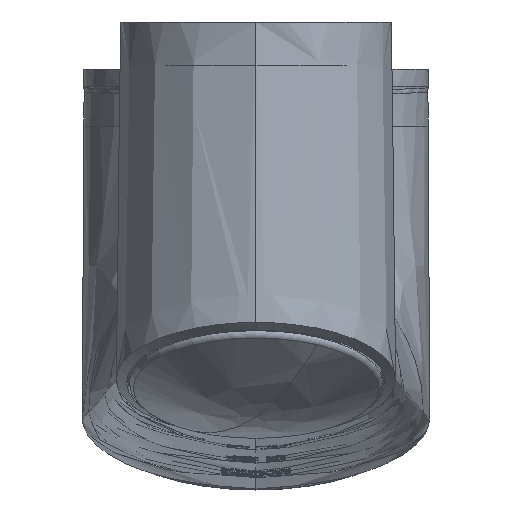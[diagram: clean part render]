
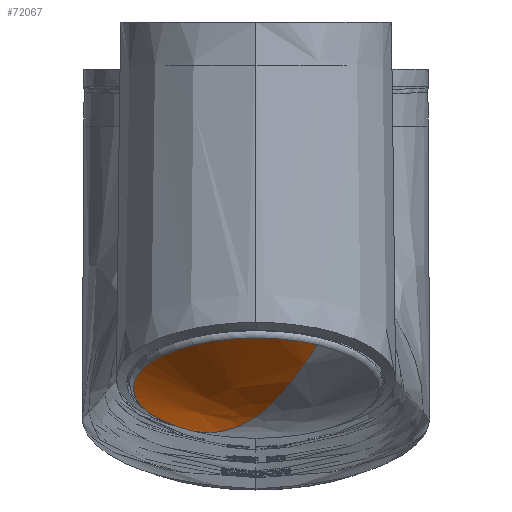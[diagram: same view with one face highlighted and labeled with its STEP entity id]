
A CAD part, top view. The second image highlights one B-rep face of the part: STEP entity #72067.
In plain terms, the highlighted free-form (B-spline) face has degree [2, 3] with [3, 4] control points.
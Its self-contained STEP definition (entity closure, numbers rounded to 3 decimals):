
#952 = VERTEX_POINT ( 'NONE', #61733 ) ;
#3446 = CARTESIAN_POINT ( 'NONE',  ( 150., -232.071, 1023.697 ) ) ;
#4675 = EDGE_CURVE ( 'NONE', #75337, #35367, #16576, .T. ) ;
#5918 = B_SPLINE_CURVE_WITH_KNOTS ( 'NONE', 2,
 ( #68994, #49418, #35796 ),
 .UNSPECIFIED., .F., .F.,
 ( 3, 3 ),
 ( 0., 0.931 ),
 .UNSPECIFIED. ) ;
#10265 = CARTESIAN_POINT ( 'NONE',  ( 150., -232.071, 1023.697 ) ) ;
#12660 = CARTESIAN_POINT ( 'NONE',  ( 150., -232.071, 1023.697 ) ) ;
#13939 = CARTESIAN_POINT ( 'NONE',  ( 176.809, -200.513, 1060.475 ) ) ;
#16576 = CIRCLE ( 'NONE', #64140, 53.618 ) ;
#17064 = CARTESIAN_POINT ( 'NONE',  ( 176.809, -200.513, 1060.475 ) ) ;
#17228 = CARTESIAN_POINT ( 'NONE',  ( 103.565, -208.495, 1042.546 ) ) ;
#17512 = CARTESIAN_POINT ( 'NONE',  ( 150., -219.399, 1018.055 ) ) ;
#17959 = CARTESIAN_POINT ( 'NONE',  ( 123.191, -238.286, 975.635 ) ) ;
#25763 = EDGE_LOOP ( 'NONE', ( #62318, #54964, #58201, #57927 ) ) ;
#29397 = CARTESIAN_POINT ( 'NONE',  ( 120.174, -213.697, 1064.964 ) ) ;
#31056 = EDGE_CURVE ( 'NONE', #47692, #952, #83097, .T. ) ;
#31399 = CARTESIAN_POINT ( 'NONE',  ( 30.322, -216.478, 1024.617 ) ) ;
#35367 = VERTEX_POINT ( 'NONE', #17228 ) ;
#35416 = CARTESIAN_POINT ( 'NONE',  ( 150., -232.071, 1023.697 ) ) ;
#35796 = CARTESIAN_POINT ( 'NONE',  ( 176.809, -200.513, 1060.475 ) ) ;
#36207 = CARTESIAN_POINT ( 'NONE',  ( 150., -232.071, 1023.697 ) ) ;
#37419 = DIRECTION ( 'NONE',  ( -0.866, 0.203, 0.457 ) ) ;
#38977 = EDGE_CURVE ( 'NONE', #35367, #952, #73790, .T. ) ;
#43920 = CARTESIAN_POINT ( 'NONE',  ( 150., -232.071, 1023.697 ) ) ;
#47692 = VERTEX_POINT ( 'NONE', #35416 ) ;
#49342 = AXIS2_PLACEMENT_3D ( 'NONE', #17512, #69426, #82610 ) ;
#49405 = CARTESIAN_POINT ( 'NONE',  ( 95.966, -230.752, 1026.659 ) ) ;
#49418 = CARTESIAN_POINT ( 'NONE',  ( 162.104, -223.544, 1042.849 ) ) ;
#54964 = ORIENTED_EDGE ( 'NONE', *, *, #73319, .T. ) ;
#55366 = CARTESIAN_POINT ( 'NONE',  ( 123.191, -238.286, 975.635 ) ) ;
#57927 = ORIENTED_EDGE ( 'NONE', *, *, #38977, .T. ) ;
#58201 = ORIENTED_EDGE ( 'NONE', *, *, #4675, .T. ) ;
#61733 = CARTESIAN_POINT ( 'NONE',  ( 123.191, -238.286, 975.635 ) ) ;
#62318 = ORIENTED_EDGE ( 'NONE', *, *, #31056, .F. ) ;
#63088 = CARTESIAN_POINT ( 'NONE',  ( 137.896, -240.598, 1004.544 ) ) ;
#63752 = CARTESIAN_POINT ( 'NONE',  ( 162.104, -223.544, 1042.849 ) ) ;
#64140 = AXIS2_PLACEMENT_3D ( 'NONE', #82531, #69765, #37419 ) ;
#68994 = CARTESIAN_POINT ( 'NONE',  ( 150., -232.071, 1023.697 ) ) ;
#69426 = DIRECTION ( 'NONE',  ( 0., -0.914, 0.407 ) ) ;
#69765 = DIRECTION ( 'NONE',  ( 0., -0.914, 0.407 ) ) ;
#70128 = FACE_OUTER_BOUND ( 'NONE', #25763, .T. ) ;
#70538 = CARTESIAN_POINT ( 'NONE',  ( 137.896, -240.598, 1004.544 ) ) ;
#71269 =( BOUNDED_SURFACE ( )  B_SPLINE_SURFACE ( 2, 3, ( 
 ( #3446, #10265, #36207, #12660 ),
 ( #70538, #49405, #29397, #63752 ),
 ( #55366, #31399, #74514, #17064 ) ),
 .UNSPECIFIED., .F., .F., .F. ) 
 B_SPLINE_SURFACE_WITH_KNOTS ( ( 3, 3 ),
 ( 4, 4 ),
 ( 0., 0.931 ),
 ( 0., 1. ),
 .UNSPECIFIED. ) 
 GEOMETRIC_REPRESENTATION_ITEM ( )  RATIONAL_B_SPLINE_SURFACE ( (
 ( 1., 0.333, 0.333, 1.),
 ( 1., 0.333, 0.333, 1.),
 ( 1., 0.333, 0.333, 1.) ) ) 
 REPRESENTATION_ITEM ( '' )  SURFACE ( )  );
#72067 = ADVANCED_FACE ( 'NONE', ( #70128 ), #71269, .F. ) ;
#73319 = EDGE_CURVE ( 'NONE', #47692, #75337, #5918, .T. ) ;
#73790 = CIRCLE ( 'NONE', #49342, 53.618 ) ;
#74514 = CARTESIAN_POINT ( 'NONE',  ( 83.94, -178.704, 1109.458 ) ) ;
#75337 = VERTEX_POINT ( 'NONE', #13939 ) ;
#82531 = CARTESIAN_POINT ( 'NONE',  ( 150., -219.399, 1018.055 ) ) ;
#82610 = DIRECTION ( 'NONE',  ( -0.866, 0.203, 0.457 ) ) ;
#83097 = B_SPLINE_CURVE_WITH_KNOTS ( 'NONE', 2,
 ( #43920, #63088, #17959 ),
 .UNSPECIFIED., .F., .F.,
 ( 3, 3 ),
 ( 0., 0.931 ),
 .UNSPECIFIED. ) ;
